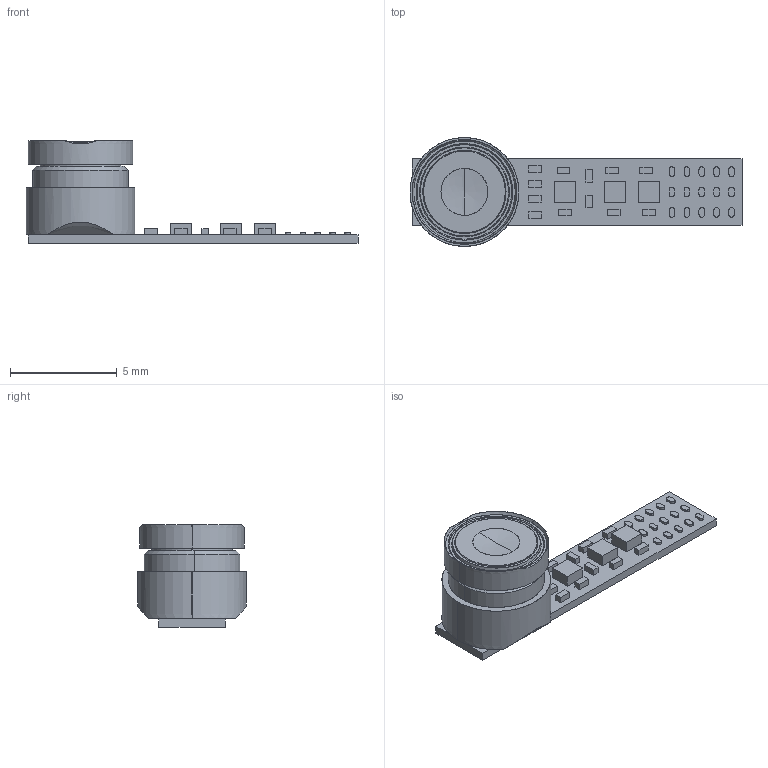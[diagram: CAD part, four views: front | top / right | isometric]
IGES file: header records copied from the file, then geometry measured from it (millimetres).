
Start section: SolidWorks IGES file using analytic representation for surfaces
Bounding box: 15.55 x 5.1 x 4.82 mm (x, y, z)
Surface area: 409.6 mm2 (no closed solid volume)
Topology: 0 solids, 0 shells, 282 faces, 2606 edges, 2602 vertices
Faces by surface type: bspline 172, revolution 110
